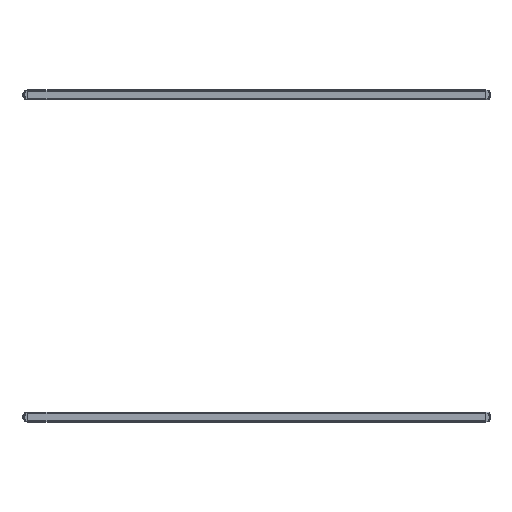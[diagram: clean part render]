
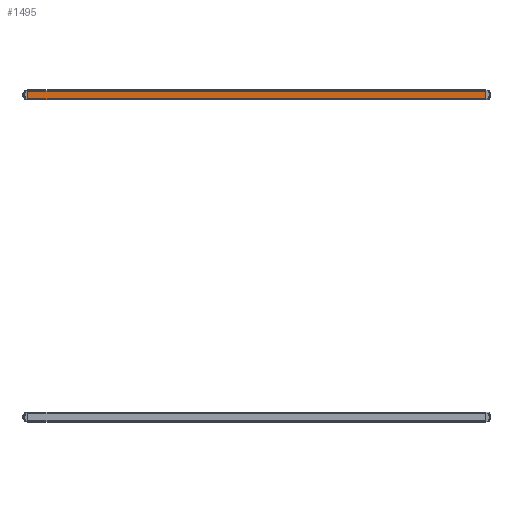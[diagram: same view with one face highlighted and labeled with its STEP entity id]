
A CAD part, front view. The second image highlights one B-rep face of the part: STEP entity #1495.
In plain terms, the highlighted planar face has unit normal (0, -1, 0).
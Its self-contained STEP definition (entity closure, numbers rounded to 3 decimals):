
#1495=ADVANCED_FACE('',(#2417),#2028,.T.);
#2028=PLANE('',#11681);
#2417=FACE_OUTER_BOUND('',#2936,.T.);
#2936=EDGE_LOOP('',(#6212,#6213,#6214,#6215));
#3504=LINE('',#15476,#4677);
#3606=LINE('',#15708,#4779);
#3694=LINE('',#15887,#4867);
#3695=LINE('',#15888,#4868);
#4677=VECTOR('',#12523,1.);
#4779=VECTOR('',#12669,1.);
#4867=VECTOR('',#12859,1.);
#4868=VECTOR('',#12860,1.);
#6212=ORIENTED_EDGE('',*,*,#9854,.T.);
#6213=ORIENTED_EDGE('',*,*,#10063,.T.);
#6214=ORIENTED_EDGE('',*,*,#9971,.F.);
#6215=ORIENTED_EDGE('',*,*,#10064,.F.);
#8861=VERTEX_POINT('',#15475);
#8862=VERTEX_POINT('',#15477);
#8969=VERTEX_POINT('',#15707);
#8970=VERTEX_POINT('',#15709);
#9854=EDGE_CURVE('',#8862,#8861,#3504,.T.);
#9971=EDGE_CURVE('',#8969,#8970,#3606,.T.);
#10063=EDGE_CURVE('',#8861,#8970,#3694,.T.);
#10064=EDGE_CURVE('',#8862,#8969,#3695,.T.);
#11681=AXIS2_PLACEMENT_3D('',#15889,#12861,#12862);
#12523=DIRECTION('',(0.,0.,-1.));
#12669=DIRECTION('',(0.,0.,-1.));
#12859=DIRECTION('',(1.,0.,0.));
#12860=DIRECTION('',(1.,0.,0.));
#12861=DIRECTION('',(0.,-1.,0.));
#12862=DIRECTION('',(0.,0.,1.));
#15475=CARTESIAN_POINT('',(0.,-15.15,-12.));
#15476=CARTESIAN_POINT('',(0.,-15.15,12.));
#15477=CARTESIAN_POINT('',(0.,-15.15,12.));
#15707=CARTESIAN_POINT('',(1460.,-15.15,12.));
#15708=CARTESIAN_POINT('',(1460.,-15.15,0.));
#15709=CARTESIAN_POINT('',(1460.,-15.15,-12.));
#15887=CARTESIAN_POINT('',(0.,-15.15,-12.));
#15888=CARTESIAN_POINT('',(0.,-15.15,12.));
#15889=CARTESIAN_POINT('',(0.,-15.15,15.65));
